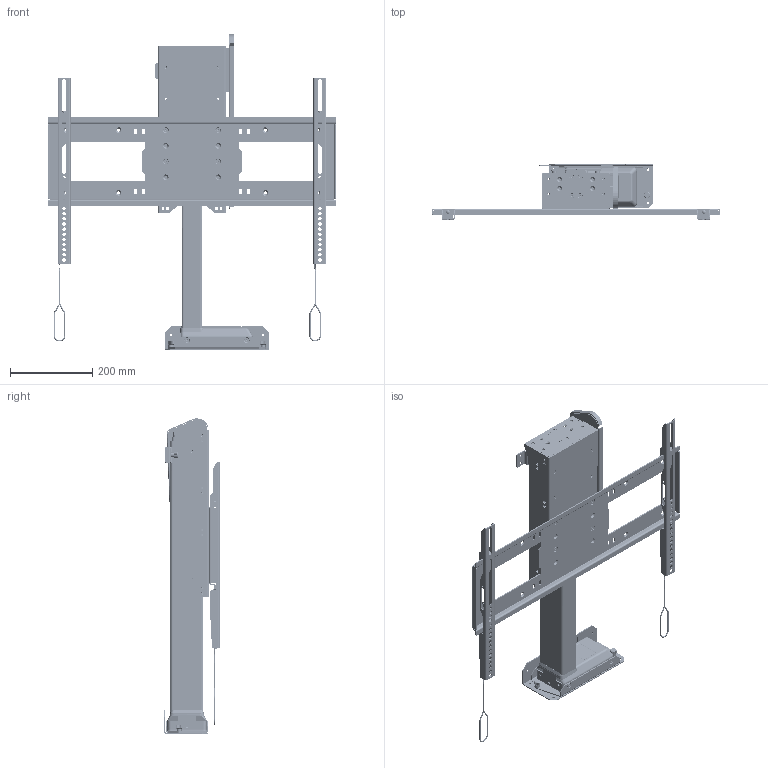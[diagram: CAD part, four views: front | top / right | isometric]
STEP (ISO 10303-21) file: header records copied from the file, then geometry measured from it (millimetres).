
FILE_DESCRIPTION(/* description */ ('STEP AP242','CAx-IF Rec.Pracs.---Representation and Presentation of Product Manufacturing Information (PMI)---4.0---2014-10-13','CAx-IF Rec.Pracs.---3D Tessellated Geometry---0.4---2014-09-14','2;1'),/* implementation_level */ '2;1');
FILE_NAME(/* name */ '63effc27e841dc281484805a',/* time_stamp */ '2023-02-17T22:14:03+00:00',/* author */ (''),/* organization */ (''),/* preprocessor_version */ 'ST-DEVELOPER v18.102',/* originating_system */ ' ',/* authorisation */ ' ');
FILE_SCHEMA (('AP242_MANAGED_MODEL_BASED_3D_ENGINEERING_MIM_LF { 1 0 10303 442 1 1 4 }'));
Products named in the file (38): L-65/s; Hex socket countersunk head screw M6x1 x 16; Hex socket countersunk head screw M6x1 x 12; Socket button head screw M6x1 x 8; ULS-NX-037 -- ULS HTG Adapter Plate; WDS8151-215; OLD_ULS-NX-024 - ULS Hinged Top Guide; ULS-NX-108 - ULS SCREEN SUPPORT WELDMENT <1>; PEM CLS-M6-1  ; F-M6-3 M6 PEM NUT; ULS-NX-008 - UL SCREEN SUPPORT SHELL; ULS-NX-009 - ULS SCREEN SUPPORT TOP PLATE <1>; ULS-NX-009 - UL SCREEN SUPPORT TOP PLATE; SBP & VMB <1>; PZ Pan head screw M5x0.80 x 25; ULS-NX-017 - UL SCREEN BACK PLATE; Lanyard; ULS-NX-118 - UL VMB WELDMENT <2>; Socket button head cap screw #6-32 x 0.188; VMB Washer; ULS-NX-019 - UL LEVEL ADJUSTMENT PLATE; PEM BSO-632-10  ZI; 90107A012; ULS-NX-018 - UL VERICAL MOUNTING BAR; ULS-NX-020 - UL SCREEN LOCK; ULS-NX-118 - UL VMB WELDMENT <1>; L-65 Lower Sub Assembly <1>; ULS-NX-002 - ULS QUICK RELEASE LC MOUNT; ULS-NX-004 - ULS COLUMN CLAMP; ULS-NX-001 - ULS QUICK RELEASE BASE MOUNT W/ PEMS <1>; PEM FHS-M6-12  ; ULS-NX-001 - ULS QUICK RELEASE BASE MOUNT; ULS-NX-022 - ULS REAR SUPPORT <1>; ULS-NX-022 - ULS REAR SUPPORT; DL16XL_STANDART_ASM <1>; L45 LC Inner Profile; L45 LC Motor Housing; L45 LC Middle Profile
Assembly tree (114 placements, depth 4):
  L-65/s
    Hex socket countersunk head screw M6x1 x 16  x4
    Hex socket countersunk head screw M6x1 x 12  x10
    Socket button head screw M6x1 x 8  x4
    ULS-NX-037 -- ULS HTG Adapter Plate
    WDS8151-215  x4
    OLD_ULS-NX-024 - ULS Hinged Top Guide
    ULS-NX-108 - ULS SCREEN SUPPORT WELDMENT <1>
      PEM CLS-M6-1    x32
      F-M6-3 M6 PEM NUT
      ULS-NX-008 - UL SCREEN SUPPORT SHELL
      ULS-NX-009 - ULS SCREEN SUPPORT TOP PLATE <1>
        PEM CLS-M6-1    x4
        ULS-NX-009 - UL SCREEN SUPPORT TOP PLATE
    SBP & VMB <1>
      PZ Pan head screw M5x0.80 x 25  x2
      ULS-NX-017 - UL SCREEN BACK PLATE
      Lanyard  x2
      ULS-NX-118 - UL VMB WELDMENT <2>
        Socket button head cap screw #6-32 x 0.188  x2
        VMB Washer  x4
        ULS-NX-019 - UL LEVEL ADJUSTMENT PLATE
        PEM BSO-632-10  ZI  x2
        90107A012  x2
        ULS-NX-018 - UL VERICAL MOUNTING BAR
        ULS-NX-020 - UL SCREEN LOCK
      ULS-NX-118 - UL VMB WELDMENT <1>
        VMB Washer  x4
        Socket button head cap screw #6-32 x 0.188  x2
        PEM BSO-632-10  ZI  x2
        ULS-NX-020 - UL SCREEN LOCK
        ULS-NX-018 - UL VERICAL MOUNTING BAR
        90107A012  x2
        ULS-NX-019 - UL LEVEL ADJUSTMENT PLATE
    L-65 Lower Sub Assembly <1>
      ULS-NX-002 - ULS QUICK RELEASE LC MOUNT
      ULS-NX-004 - ULS COLUMN CLAMP
      ULS-NX-001 - ULS QUICK RELEASE BASE MOUNT W/ PEMS <1>
        PEM FHS-M6-12    x2
        ULS-NX-001 - ULS QUICK RELEASE BASE MOUNT
      ULS-NX-022 - ULS REAR SUPPORT <1>
        ULS-NX-022 - ULS REAR SUPPORT
        PEM FHS-M6-12    x2
      DL16XL_STANDART_ASM <1>
        L45 LC Inner Profile
        L45 LC Motor Housing
        L45 LC Middle Profile
Bounding box: 698.5 x 135.05 x 764.98 mm (x, y, z)
Volume: 8374898.8 mm3; surface area: 1518415.5 mm2
Topology: 105 solids, 105 shells, 8350 faces, 22329 edges, 14448 vertices
Faces by surface type: plane 5761, cylinder 1524, cone 517, bspline 358, torus 168, sphere 22
Full cylindrical faces by diameter (mm): 2.032 x14, 2.642 x4, 3.175 x10, 3.505 x4, 4.6 x2, 4.917 x37, 5 x18, 5.026 x4, 5.08 x4, 5.277 x8, 5.3 x6, 5.385 x12, 5.41 x8, 5.6 x4, 5.613 x6, 5.944 x4, 5.994 x2, 6 x36, 6.35 x16, 6.528 x4, 6.6 x4, 6.604 x4, 6.655 x4, 6.976 x1, 7.112 x2, 7.62 x2, 8.128 x34, 8.72 x1, 8.73 x36, 8.75 x36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
Entity records: 85574 total; most frequent: CARTESIAN_POINT 16863, DIRECTION 13407, ORIENTED_EDGE 13130, EDGE_CURVE 6565, AXIS2_PLACEMENT_3D 4577, VERTEX_POINT 4338, LINE 4253, VECTOR 4253
